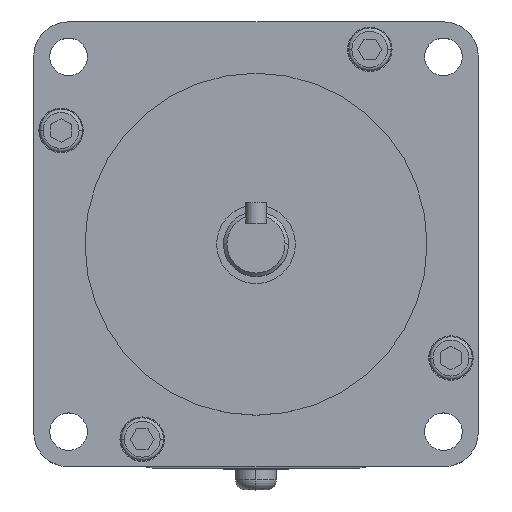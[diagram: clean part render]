
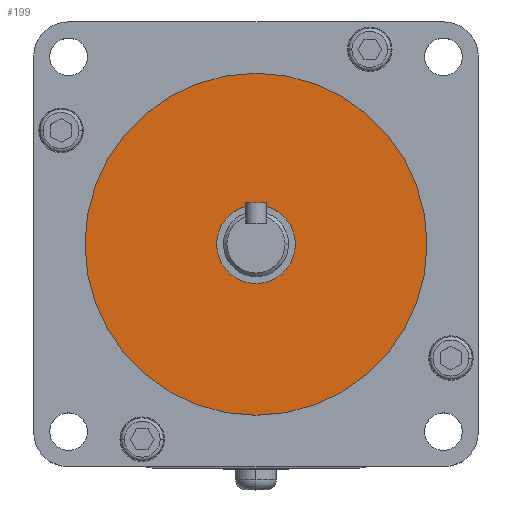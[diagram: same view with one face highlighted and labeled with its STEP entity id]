
A CAD part, top view. The second image highlights one B-rep face of the part: STEP entity #199.
In plain terms, the highlighted planar face has unit normal (0, 0, 1).
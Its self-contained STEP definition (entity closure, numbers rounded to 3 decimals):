
#199 = ADVANCED_FACE ( 'NONE', ( #6818, #5226 ), #10089, .T. ) ;
#760 = AXIS2_PLACEMENT_3D ( 'NONE', #8033, #9763, #3855 ) ;
#1149 = AXIS2_PLACEMENT_3D ( 'NONE', #1585, #1313, #4650 ) ;
#1313 = DIRECTION ( 'NONE',  ( 0., 0., 1. ) ) ;
#1585 = CARTESIAN_POINT ( 'NONE',  ( 0., 0., 293.5 ) ) ;
#1787 = CIRCLE ( 'NONE', #760, 11.5 ) ;
#2339 = DIRECTION ( 'NONE',  ( 1., 0., 0. ) ) ;
#2381 = DIRECTION ( 'NONE',  ( 0., 0., 1. ) ) ;
#2668 = EDGE_LOOP ( 'NONE', ( #8120, #6053 ) ) ;
#3050 = DIRECTION ( 'NONE',  ( 1., 0., 0. ) ) ;
#3189 = ORIENTED_EDGE ( 'NONE', *, *, #5089, .F. ) ;
#3380 = VERTEX_POINT ( 'NONE', #10134 ) ;
#3837 = CARTESIAN_POINT ( 'NONE',  ( 0., 0., 293.5 ) ) ;
#3855 = DIRECTION ( 'NONE',  ( 1., 0., 0. ) ) ;
#3920 = VERTEX_POINT ( 'NONE', #4003 ) ;
#4003 = CARTESIAN_POINT ( 'NONE',  ( 11.5, 0., 293.5 ) ) ;
#4333 = AXIS2_PLACEMENT_3D ( 'NONE', #3837, #7111, #2339 ) ;
#4613 = CIRCLE ( 'NONE', #8892, 11.5 ) ;
#4650 = DIRECTION ( 'NONE',  ( 1., 0., 0. ) ) ;
#4765 = CARTESIAN_POINT ( 'NONE',  ( 0., 0., 293.5 ) ) ;
#5089 = EDGE_CURVE ( 'NONE', #3920, #5764, #4613, .T. ) ;
#5226 = FACE_BOUND ( 'NONE', #6703, .T. ) ;
#5497 = DIRECTION ( 'NONE',  ( 1., 0., 0. ) ) ;
#5601 = CARTESIAN_POINT ( 'NONE',  ( 0., 0., 293.5 ) ) ;
#5676 = CIRCLE ( 'NONE', #1149, 50. ) ;
#5764 = VERTEX_POINT ( 'NONE', #8806 ) ;
#6053 = ORIENTED_EDGE ( 'NONE', *, *, #7641, .T. ) ;
#6703 = EDGE_LOOP ( 'NONE', ( #7416, #3189 ) ) ;
#6802 = CARTESIAN_POINT ( 'NONE',  ( -50., 0., 293.5 ) ) ;
#6818 = FACE_OUTER_BOUND ( 'NONE', #2668, .T. ) ;
#6832 = EDGE_CURVE ( 'NONE', #9297, #3380, #6860, .T. ) ;
#6860 = CIRCLE ( 'NONE', #4333, 50. ) ;
#6962 = AXIS2_PLACEMENT_3D ( 'NONE', #5601, #8754, #5497 ) ;
#7111 = DIRECTION ( 'NONE',  ( 0., 0., 1. ) ) ;
#7416 = ORIENTED_EDGE ( 'NONE', *, *, #8449, .F. ) ;
#7641 = EDGE_CURVE ( 'NONE', #3380, #9297, #5676, .T. ) ;
#8033 = CARTESIAN_POINT ( 'NONE',  ( 0., 0., 293.5 ) ) ;
#8120 = ORIENTED_EDGE ( 'NONE', *, *, #6832, .T. ) ;
#8449 = EDGE_CURVE ( 'NONE', #5764, #3920, #1787, .T. ) ;
#8754 = DIRECTION ( 'NONE',  ( 0., 0., 1. ) ) ;
#8806 = CARTESIAN_POINT ( 'NONE',  ( -11.5, 0., 293.5 ) ) ;
#8892 = AXIS2_PLACEMENT_3D ( 'NONE', #4765, #2381, #3050 ) ;
#9297 = VERTEX_POINT ( 'NONE', #6802 ) ;
#9763 = DIRECTION ( 'NONE',  ( 0., 0., 1. ) ) ;
#10089 = PLANE ( 'NONE',  #6962 ) ;
#10134 = CARTESIAN_POINT ( 'NONE',  ( 50., 0., 293.5 ) ) ;
